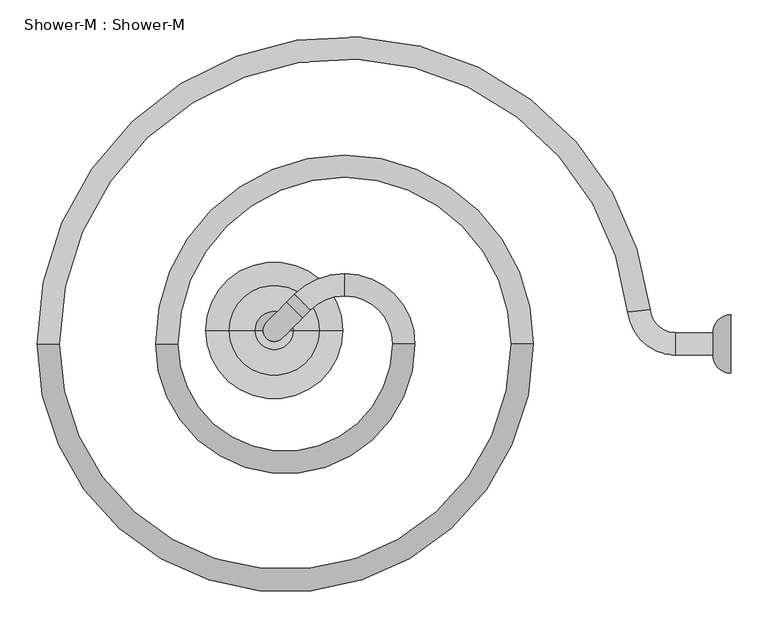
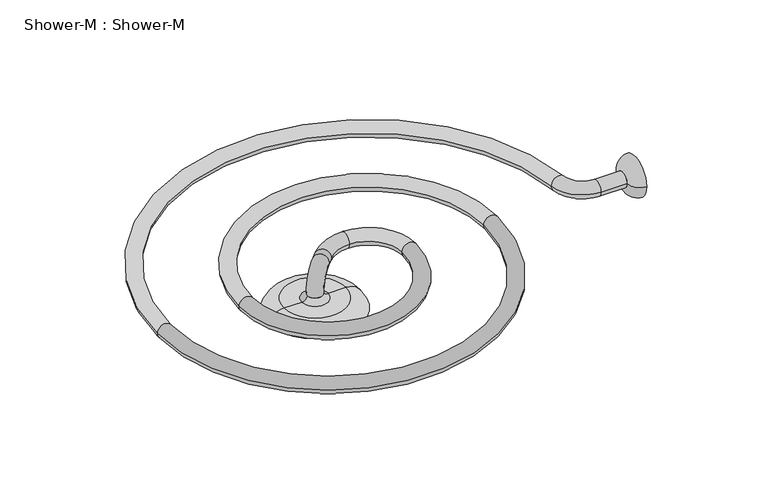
"""IFC4 building model written with IfcOpenShell, lengths in millimetres: flow terminal geometry, Shower-M : Shower-M."""

from ifc_helpers import new_model, si_unit, point, frame, origin, place, context, project, spatial, circle_curve, ellipse_curve, trimmed, source, transform, mapped, element, save
from ifc_brep_helpers import plane_surface, cylinder_surface, revolved_surface, advanced_brep


def shower_m_shower_m_096738a5(model_context):
    return source(origin(), model_context, "Body", "AdvancedBrep", [
        advanced_brep(
        [(497.2135955, -15.0, 0.0), (497.2135955, 15.0, 0.0), (447.2135955, -15.0, 0.0), (447.2135955, 15.0, 0.0), (382.6160761, 42.7777778, 0.0), (412.4303158, 46.1111111, 0.0), (-385.0, 0.0, 0.0), (-415.0, 0.0, 0.0), (225.0, 0.0, 0.0), (255.0, 0.0, 0.0), (-225.0, 0.0, 0.0), (-255.0, 0.0, 0.0), (65.0, 0.0, 0.0), (95.0, 0.0, 0.0), (0.0, 65.0, 0.0), (0.0, 95.0, 0.0), (-45.9619408, 45.9619408, 0.0), (-56.5685425, 56.5685425, -15.0), (-67.1751442, 67.1751442, 0.0), (-56.5685425, 56.5685425, 15.0), (-77.7817459, 56.5685425, 0.0), (-56.5685425, 35.3553391, 0.0), (-105.5150374, 28.835251, -39.220797), (-84.301834, 7.6220476, -39.220797)],
        [
            (0, 1, circle_curve(frame((497.2135955, 0.0, 0.0), z_axis=(1.0, 0.0, 0.0), x_axis=(0.0, 1.0, 0.0)), 15.0)),
            (1, 0, circle_curve(frame((497.2135955, 0.0, 0.0), z_axis=(1.0, 0.0, 0.0), x_axis=(0.0, 1.0, 0.0)), 15.0)),
            (0, 2),
            (2, 3, circle_curve(frame((447.2135955, 0.0, 0.0), z_axis=(1.0, 0.0, 0.0), x_axis=(0.0, 1.0, 0.0)), 15.0)),
            (3, 1),
            (3, 2, circle_curve(frame((447.2135955, 0.0, 0.0), z_axis=(1.0, 0.0, 0.0), x_axis=(0.0, 1.0, 0.0)), 15.0)),
            (2, 4, circle_curve(frame((447.2135955, 50.0, 0.0), z_axis=(0.0, 0.0, -1.0), x_axis=(0.0, -1.0, 0.0)), 65.0)),
            (4, 5, circle_curve(frame((397.523196, 44.4444444, 0.0), z_axis=(0.11111111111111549, -0.993807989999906, 0.0), x_axis=(0.993807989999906, 0.11111111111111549, 0.0)), 15.0)),
            (5, 3, circle_curve(frame((447.2135955, 50.0, 0.0), z_axis=(0.0, 0.0, 1.0), x_axis=(0.0, -1.0, 0.0)), 35.0)),
            (5, 4, circle_curve(frame((397.523196, 44.4444444, 0.0), z_axis=(0.11111111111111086, -0.9938079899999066, 0.0), x_axis=(0.9938079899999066, 0.11111111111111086, 0.0)), 15.0)),
            (4, 6, circle_curve(frame((0.0, 0.0, 0.0), z_axis=(0.0, 0.0, 1.0), x_axis=(0.9938079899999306, 0.11111111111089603, 0.0)), 385.0)),
            (6, 7, circle_curve(frame((-400.0, 0.0, 0.0), z_axis=(0.0, 1.0, 0.0), x_axis=(-1.0, 0.0, 0.0)), 15.0)),
            (7, 5, circle_curve(frame((0.0, 0.0, 0.0), z_axis=(0.0, 0.0, -1.0), x_axis=(0.9938079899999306, 0.11111111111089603, 0.0)), 415.0)),
            (7, 6, circle_curve(frame((-400.0, 0.0, 0.0), z_axis=(0.0, 1.0, 0.0), x_axis=(-1.0, 0.0, 0.0)), 15.0)),
            (6, 8, circle_curve(frame((-80.0, 0.0, 0.0), z_axis=(0.0, 0.0, 1.0), x_axis=(-1.0, 0.0, 0.0)), 305.0)),
            (8, 9, circle_curve(frame((240.0, 0.0, 0.0), z_axis=(-1.5118437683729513e-12, -1.0, 0.0), x_axis=(1.0, -1.5118437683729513e-12, 0.0)), 15.0)),
            (9, 7, circle_curve(frame((-80.0, 0.0, 0.0), z_axis=(0.0, 0.0, -1.0), x_axis=(-1.0, 0.0, 0.0)), 335.0)),
            (9, 8, circle_curve(frame((240.0, 0.0, 0.0), z_axis=(-1.5122878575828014e-12, -1.0, 0.0), x_axis=(1.0, -1.5122878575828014e-12, 0.0)), 15.0)),
            (8, 10, circle_curve(frame((0.0, 0.0, 0.0), z_axis=(0.0, 0.0, 1.0), x_axis=(1.0, -1.7419628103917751e-12, 0.0)), 225.0)),
            (10, 11, circle_curve(frame((-240.0, 0.0, 0.0), z_axis=(0.0, 1.0, 0.0), x_axis=(-1.0, 0.0, 0.0)), 15.0)),
            (11, 9, circle_curve(frame((0.0, 0.0, 0.0), z_axis=(0.0, 0.0, -1.0), x_axis=(1.0, -1.7419628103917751e-12, 0.0)), 255.0)),
            (11, 10, circle_curve(frame((-240.0, 0.0, 0.0), z_axis=(0.0, 1.0, 0.0), x_axis=(-1.0, 0.0, 0.0)), 15.0)),
            (10, 12, circle_curve(frame((-80.0, 0.0, 0.0), z_axis=(0.0, 0.0, 1.0), x_axis=(-1.0, 1.0983550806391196e-12, 0.0)), 145.0)),
            (12, 13, circle_curve(frame((80.0, 0.0, 0.0), z_axis=(-1.3501952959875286e-12, -1.0, 0.0), x_axis=(1.0, -1.3501952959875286e-12, 0.0)), 15.0)),
            (13, 11, circle_curve(frame((-80.0, 0.0, 0.0), z_axis=(0.0, 0.0, -1.0), x_axis=(-1.0, 1.0983550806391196e-12, 0.0)), 175.0)),
            (13, 12, circle_curve(frame((80.0, 0.0, 0.0), z_axis=(-1.3519716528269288e-12, -1.0, 0.0), x_axis=(1.0, -1.3519716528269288e-12, 0.0)), 15.0)),
            (12, 14, circle_curve(frame((0.0, 0.0, 0.0), z_axis=(0.0, 0.0, 1.0), x_axis=(1.0, -1.5865315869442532e-12, 0.0)), 65.0)),
            (14, 15, circle_curve(frame((0.0, 80.0, 0.0), z_axis=(1.0, 0.0, 0.0), x_axis=(0.0, 1.0, 0.0)), 15.0)),
            (15, 13, circle_curve(frame((0.0, 0.0, 0.0), z_axis=(0.0, 0.0, -1.0), x_axis=(1.0, -1.5865315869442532e-12, 0.0)), 95.0)),
            (15, 14, circle_curve(frame((0.0, 80.0, 0.0), z_axis=(1.0, 0.0, 0.0), x_axis=(0.0, 1.0, 0.0)), 15.0)),
            (14, 16, circle_curve(frame((0.0, 0.0, 0.0), z_axis=(0.0, 0.0, 1.0), x_axis=(0.0, 1.0, 0.0)), 65.0)),
            (16, 17, circle_curve(frame((-56.5685425, 56.5685425, 0.0), z_axis=(0.7071067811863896, 0.7071067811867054, 0.0), x_axis=(-0.7071067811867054, 0.7071067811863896, 0.0)), 15.0)),
            (17, 18, circle_curve(frame((-56.5685425, 56.5685425, 0.0), z_axis=(0.7071067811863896, 0.7071067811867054, 0.0), x_axis=(-0.7071067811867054, 0.7071067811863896, 0.0)), 15.0)),
            (18, 15, circle_curve(frame((0.0, 0.0, 0.0), z_axis=(0.0, 0.0, -1.0), x_axis=(0.0, 1.0, 0.0)), 95.0)),
            (18, 19, circle_curve(frame((-56.5685425, 56.5685425, 0.0), z_axis=(0.7071067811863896, 0.7071067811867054, 0.0), x_axis=(-0.7071067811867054, 0.7071067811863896, 0.0)), 15.0)),
            (19, 16, circle_curve(frame((-56.5685425, 56.5685425, 0.0), z_axis=(0.707106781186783, 0.707106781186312, 0.0), x_axis=(-0.707106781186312, 0.707106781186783, 0.0)), 15.0)),
            (18, 20),
            (20, 21, circle_curve(frame((-67.1751442, 45.9619408, 0.0), z_axis=(0.7071067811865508, 0.7071067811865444, 0.0), x_axis=(-0.7071067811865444, 0.7071067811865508, 0.0)), 15.0)),
            (21, 16),
            (21, 20, circle_curve(frame((-67.1751442, 45.9619408, 0.0), z_axis=(0.7071067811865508, 0.7071067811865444, 0.0), x_axis=(-0.7071067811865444, 0.7071067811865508, 0.0)), 15.0)),
            (22, 23, circle_curve(frame((-94.9084357, 18.2286493, -39.220797), z_axis=(0.0, 0.0, -1.0000000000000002), x_axis=(-0.7071067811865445, 0.7071067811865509, 0.0)), 15.0)),
            (23, 22, circle_curve(frame((-94.9084357, 18.2286493, -39.220797), z_axis=(0.0, 0.0, -1.0000000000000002), x_axis=(-0.7071067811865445, 0.7071067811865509, 0.0)), 15.0)),
            (20, 22, circle_curve(frame((-77.7817459, 56.5685425, -39.220797), z_axis=(0.7071067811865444, -0.7071067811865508, 0.0), x_axis=(0.0, 0.0, 1.0000000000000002)), 39.220797)),
            (23, 21, circle_curve(frame((-56.5685425, 35.3553391, -39.220797), z_axis=(-0.7071067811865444, 0.7071067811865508, 0.0), x_axis=(0.0, 0.0, 1.0000000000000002)), 39.220797)),
        ],
        [
            plane_surface(frame((497.2135955, 0.0, 0.0), z_axis=(1.0, 0.0, 0.0), x_axis=(0.0, 0.0, 1.0))),
            cylinder_surface(frame((497.2135955, 0.0, 0.0), z_axis=(1.0, 0.0, 0.0), x_axis=(0.0, 1.0, 0.0)), 15.0),
            revolved_surface(trimmed(ellipse_curve(frame((447.2135955, 0.0, 0.0), z_axis=(1.0, 0.0, 0.0), x_axis=(0.0, 1.0, 0.0)), 15.0, 15.0), [point((447.2135955, -15.0, 0.0))], [point((447.2135955, 15.0, 0.0))], True, "CARTESIAN"), (447.2135955, 50.0, 0.0), (0.0, 0.0, -1.0)),
            revolved_surface(trimmed(ellipse_curve(frame((447.2135955, 0.0, 0.0), z_axis=(1.0, 0.0, 0.0), x_axis=(0.0, 1.0, 0.0)), 15.0, 15.0), [point((447.2135955, 15.0, 0.0))], [point((447.2135955, -15.0, 0.0))], True, "CARTESIAN"), (447.2135955, 50.0, 0.0), (0.0, 0.0, -1.0)),
            revolved_surface(trimmed(ellipse_curve(frame((397.523196, 44.4444444, 0.0), z_axis=(0.11111111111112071, -0.9938079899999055, 0.0), x_axis=(0.9938079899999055, 0.11111111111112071, 0.0)), 15.0, 15.0), [point((382.6160761, 42.7777778, 0.0))], [point((412.4303158, 46.1111111, 0.0))], True, "CARTESIAN"), (0.0, 0.0, 0.0), (0.0, 0.0, 1.0)),
            revolved_surface(trimmed(ellipse_curve(frame((397.523196, 44.4444444, 0.0), z_axis=(0.11111111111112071, -0.9938079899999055, 0.0), x_axis=(0.9938079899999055, 0.11111111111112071, 0.0)), 15.0, 15.0), [point((412.4303158, 46.1111111, 0.0))], [point((382.6160761, 42.7777778, 0.0))], True, "CARTESIAN"), (0.0, 0.0, 0.0), (0.0, 0.0, 1.0)),
            revolved_surface(trimmed(ellipse_curve(frame((-400.0, 0.0, 0.0), z_axis=(0.0, 1.0, 0.0), x_axis=(-1.0, 0.0, 0.0)), 15.0, 15.0), [point((-385.0, 0.0, 0.0))], [point((-415.0, 0.0, 0.0))], True, "CARTESIAN"), (-80.0, 0.0, 0.0), (0.0, 0.0, 1.0)),
            revolved_surface(trimmed(ellipse_curve(frame((-400.0, 0.0, 0.0), z_axis=(0.0, 1.0, 0.0), x_axis=(-1.0, 0.0, 0.0)), 15.0, 15.0), [point((-415.0, 0.0, 0.0))], [point((-385.0, 0.0, 0.0))], True, "CARTESIAN"), (-80.0, 0.0, 0.0), (0.0, 0.0, 1.0)),
            revolved_surface(trimmed(ellipse_curve(frame((240.0, 0.0, 0.0), z_axis=(-1.515840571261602e-12, -1.0, 0.0), x_axis=(1.0, -1.515840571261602e-12, 0.0)), 15.0, 15.0), [point((225.0, 0.0, 0.0))], [point((255.0, 0.0, 0.0))], True, "CARTESIAN"), (0.0, 0.0, 0.0), (0.0, 0.0, 1.0)),
            revolved_surface(trimmed(ellipse_curve(frame((240.0, 0.0, 0.0), z_axis=(-1.515840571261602e-12, -1.0, 0.0), x_axis=(1.0, -1.515840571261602e-12, 0.0)), 15.0, 15.0), [point((255.0, 0.0, 0.0))], [point((225.0, 0.0, 0.0))], True, "CARTESIAN"), (0.0, 0.0, 0.0), (0.0, 0.0, 1.0)),
            revolved_surface(trimmed(ellipse_curve(frame((-240.0, 0.0, 0.0), z_axis=(0.0, 1.0, 0.0), x_axis=(-1.0, 0.0, 0.0)), 15.0, 15.0), [point((-225.0, 0.0, 0.0))], [point((-255.0, 0.0, 0.0))], True, "CARTESIAN"), (-80.0, 0.0, 0.0), (0.0, 0.0, 1.0)),
            revolved_surface(trimmed(ellipse_curve(frame((-240.0, 0.0, 0.0), z_axis=(0.0, 1.0, 0.0), x_axis=(-1.0, 0.0, 0.0)), 15.0, 15.0), [point((-255.0, 0.0, 0.0))], [point((-225.0, 0.0, 0.0))], True, "CARTESIAN"), (-80.0, 0.0, 0.0), (0.0, 0.0, 1.0)),
            revolved_surface(trimmed(ellipse_curve(frame((80.0, 0.0, 0.0), z_axis=(-1.36040934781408e-12, -1.0, 0.0), x_axis=(1.0, -1.36040934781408e-12, 0.0)), 15.0, 15.0), [point((65.0, 0.0, 0.0))], [point((95.0, 0.0, 0.0))], True, "CARTESIAN"), (0.0, 0.0, 0.0), (0.0, 0.0, 1.0)),
            revolved_surface(trimmed(ellipse_curve(frame((80.0, 0.0, 0.0), z_axis=(-1.36040934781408e-12, -1.0, 0.0), x_axis=(1.0, -1.36040934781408e-12, 0.0)), 15.0, 15.0), [point((95.0, 0.0, 0.0))], [point((65.0, 0.0, 0.0))], True, "CARTESIAN"), (0.0, 0.0, 0.0), (0.0, 0.0, 1.0)),
            revolved_surface(trimmed(ellipse_curve(frame((0.0, 80.0, 0.0), z_axis=(1.0, 0.0, 0.0), x_axis=(0.0, 1.0, 0.0)), 15.0, 15.0), [point((0.0, 65.0, 0.0))], [point((0.0, 95.0, 0.0))], True, "CARTESIAN"), (0.0, 0.0, 0.0), (0.0, 0.0, 1.0)),
            revolved_surface(trimmed(ellipse_curve(frame((0.0, 80.0, 0.0), z_axis=(1.0, 0.0, 0.0), x_axis=(0.0, 1.0, 0.0)), 15.0, 15.0), [point((0.0, 95.0, 0.0))], [point((0.0, 65.0, 0.0))], True, "CARTESIAN"), (0.0, 0.0, 0.0), (0.0, 0.0, 1.0)),
            cylinder_surface(frame((-56.5685425, 56.5685425, 0.0), z_axis=(0.7071067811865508, 0.7071067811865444, 0.0), x_axis=(-0.7071067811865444, 0.7071067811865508, 0.0)), 15.0),
            plane_surface(frame((-94.9084357, 18.2286493, -39.220797), z_axis=(0.0, 0.0, -1.0000000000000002), x_axis=(-0.7071067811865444, 0.7071067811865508, 0.0))),
            revolved_surface(trimmed(ellipse_curve(frame((-67.1751442, 45.9619408, 0.0), z_axis=(0.7071067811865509, 0.7071067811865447, 0.0), x_axis=(-0.7071067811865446, 0.7071067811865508, 0.0)), 15.0, 15.0), [point((-77.7817459, 56.5685425, 0.0))], [point((-56.5685425, 35.3553391, 0.0))], True, "CARTESIAN"), (-67.1751442, 45.9619408, -39.220797), (0.7071067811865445, -0.7071067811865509, 0.0)),
            revolved_surface(trimmed(ellipse_curve(frame((-67.1751442, 45.9619408, 0.0), z_axis=(0.7071067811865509, 0.7071067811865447, 0.0), x_axis=(-0.7071067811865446, 0.7071067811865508, 0.0)), 15.0, 15.0), [point((-56.5685425, 35.3553391, 0.0))], [point((-77.7817459, 56.5685425, 0.0))], True, "CARTESIAN"), (-67.1751442, 45.9619408, -39.220797), (0.7071067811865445, -0.7071067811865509, 0.0)),
        ],
        [
            (0, [[1, 2]]),
            (1, [[-1, 3, 4, 5]]),
            (1, [[-2, -5, 6, -3]]),
            (2, [[-4, 7, 8, 9]]),
            (3, [[-6, -9, 10, -7]]),
            (4, [[-8, 11, 12, 13]]),
            (5, [[-10, -13, 14, -11]]),
            (6, [[-12, 15, 16, 17]]),
            (7, [[-14, -17, 18, -15]]),
            (8, [[-16, 19, 20, 21]]),
            (9, [[-18, -21, 22, -19]]),
            (10, [[-20, 23, 24, 25]]),
            (11, [[-22, -25, 26, -23]]),
            (12, [[-24, 27, 28, 29]]),
            (13, [[-26, -29, 30, -27]]),
            (14, [[-28, 31, 32, 33, 34]]),
            (15, [[-30, -34, 35, 36, -31]]),
            (16, [[37, 38, 39, -36, -35]]),
            (16, [[-37, -33, -32, -39, 40]]),
            (17, [[41, 42]]),
            (18, [[-38, 43, -42, 44]]),
            (19, [[-40, -44, -41, -43]]),
        ],
    ),
        advanced_brep(
        [(497.2135955, 0.0, 0.0), (497.2135955, 15.0, 0.0), (497.2135955, -15.0, 0.0), (521.6194463, -39.4058508, 0.0), (521.6194463, 39.4058508, 0.0), (521.6194463, 0.0, 0.0)],
        [
            (0, 1),
            (1, 2, circle_curve(frame((497.2135955, 0.0, 0.0), z_axis=(-1.0, 0.0, 0.0), x_axis=(0.0, 1.0, 0.0)), 15.0)),
            (2, 0),
            (2, 1, circle_curve(frame((497.2135955, 0.0, 0.0), z_axis=(-1.0, 0.0, 0.0), x_axis=(0.0, 1.0, 0.0)), 15.0)),
            (3, 4, circle_curve(frame((521.6194463, 0.0, 0.0), z_axis=(1.0, 0.0, 0.0), x_axis=(0.0, 1.0, 0.0)), 39.4058508)),
            (4, 5),
            (5, 3),
            (4, 3, circle_curve(frame((521.6194463, 0.0, 0.0), z_axis=(1.0, 0.0, 0.0), x_axis=(0.0, 1.0, 0.0)), 39.4058508)),
            (1, 4, circle_curve(frame((521.6194463, 15.0, 0.0), z_axis=(0.0, 0.0, -1.0), x_axis=(1.0, 0.0, 0.0)), 24.4058508)),
            (3, 2, circle_curve(frame((521.6194463, -15.0, 0.0), z_axis=(0.0, 0.0, -1.0), x_axis=(1.0, 0.0, 0.0)), 24.4058508)),
        ],
        [
            plane_surface(frame((497.2135955, 0.0, 0.0), z_axis=(-1.0, 0.0, 0.0), x_axis=(0.0, 1.0, 0.0))),
            plane_surface(frame((521.6194463, 0.0, 0.0), z_axis=(1.0, 0.0, 0.0), x_axis=(0.0, 1.0, 0.0))),
            revolved_surface(trimmed(ellipse_curve(frame((521.6194463, 15.0, 0.0), z_axis=(0.0, 0.0, 1.0), x_axis=(1.0, 0.0, 0.0)), 24.4058508, 24.4058508), [point((521.6194463, 39.4058508, 0.0))], [point((497.2135955, 15.0, 0.0))], True, "CARTESIAN"), (508.5058431, 0.0, 0.0), (-1.0, 0.0, 0.0)),
        ],
        [
            (0, [[1, 2, 3]]),
            (0, [[-3, 4, -1]]),
            (1, [[5, 6, 7]]),
            (1, [[8, -7, -6]]),
            (2, [[-2, 9, -5, 10]]),
            (2, [[-4, -10, -8, -9]]),
        ],
    ),
        advanced_brep(
        [(-79.8854464, 18.2286493, -39.220797), (-109.931425, 18.2286493, -39.220797), (-94.9084357, 18.2286493, -39.220797), (-69.301834, 18.2286493, -49.1294383), (-120.5150374, 18.2286493, -49.1294383), (-34.3141304, 18.2286493, -49.1294383), (-155.502741, 18.2286493, -49.1294383), (-2.4873322, 18.2286493, -69.8273987), (-187.3295393, 18.2286493, -69.8273987), (-94.9084357, 18.2286493, -69.8273987)],
        [
            (0, 1, circle_curve(frame((-94.9084357, 18.2286493, -39.220797), z_axis=(0.0, 0.0, 1.0), x_axis=(-1.0, 0.0, 0.0)), 15.0229893)),
            (1, 2),
            (2, 0),
            (1, 0, circle_curve(frame((-94.9084357, 18.2286493, -39.220797), z_axis=(0.0, 0.0, 1.0), x_axis=(-1.0, 0.0, 0.0)), 15.0229893)),
            (3, 4, circle_curve(frame((-94.9084357, 18.2286493, -49.1294383), z_axis=(0.0, 0.0, 1.0), x_axis=(-1.0, 0.0, 0.0)), 25.6066017)),
            (4, 1, circle_curve(frame((-120.5150374, 18.2286493, -38.5228366), z_axis=(0.0, -1.0, 0.0), x_axis=(1.0, 0.0, 0.0)), 10.6066017)),
            (0, 3, circle_curve(frame((-69.301834, 18.2286493, -38.5228366), z_axis=(0.0, -1.0, 0.0), x_axis=(-1.0, 0.0, 0.0)), 10.6066017)),
            (4, 3, circle_curve(frame((-94.9084357, 18.2286493, -49.1294383), z_axis=(0.0, 0.0, 1.0), x_axis=(-1.0, 0.0, 0.0)), 25.6066017)),
            (5, 6, circle_curve(frame((-94.9084357, 18.2286493, -49.1294383), z_axis=(0.0, 0.0, 1.0), x_axis=(-1.0, 0.0, 0.0)), 60.5943053)),
            (6, 4),
            (3, 5),
            (6, 5, circle_curve(frame((-94.9084357, 18.2286493, -49.1294383), z_axis=(0.0, 0.0, 1.0), x_axis=(-1.0, 0.0, 0.0)), 60.5943053)),
            (7, 8, circle_curve(frame((-94.9084357, 18.2286493, -69.8273987), z_axis=(0.0, 0.0, 1.0), x_axis=(-1.0, 0.0, 0.0)), 92.4211036)),
            (8, 6, circle_curve(frame((-155.502741, 18.2286493, -83.9481022), z_axis=(0.0, 1.0, 0.0), x_axis=(1.0, 0.0, 0.0)), 34.8186638)),
            (5, 7, circle_curve(frame((-34.3141304, 18.2286493, -83.9481022), z_axis=(0.0, 1.0, 0.0), x_axis=(-1.0, 0.0, 0.0)), 34.8186638)),
            (8, 7, circle_curve(frame((-94.9084357, 18.2286493, -69.8273987), z_axis=(0.0, 0.0, 1.0), x_axis=(-1.0, 0.0, 0.0)), 92.4211036)),
            (9, 8),
            (7, 9),
        ],
        [
            plane_surface(frame((-94.9084357, 18.2286493, -39.220797), z_axis=(0.0, 0.0, 1.0), x_axis=(-1.0, 0.0, 0.0))),
            revolved_surface(trimmed(ellipse_curve(frame((-120.5150374, 18.2286493, -38.5228366), z_axis=(0.0, 1.0, 0.0), x_axis=(1.0, 0.0, 0.0)), 10.6066017, 10.6066017), [point((-109.931425, 18.2286493, -39.220797))], [point((-120.5150374, 18.2286493, -49.1294383))], True, "CARTESIAN"), (-94.9084357, 18.2286493, -39.220797), (0.0, 0.0, -1.0)),
            plane_surface(frame((-94.9084357, 18.2286493, -49.1294383), z_axis=(0.0, 0.0, 1.0), x_axis=(-1.0, 0.0, 0.0))),
            revolved_surface(trimmed(ellipse_curve(frame((-155.502741, 18.2286493, -83.9481022), z_axis=(0.0, -1.0, 0.0), x_axis=(1.0, 0.0, 0.0)), 34.8186638, 34.8186638), [point((-155.502741, 18.2286493, -49.1294383))], [point((-187.3295393, 18.2286493, -69.8273987))], True, "CARTESIAN"), (-94.9084357, 18.2286493, -39.220797), (0.0, 0.0, -1.0)),
            plane_surface(frame((-94.9084357, 18.2286493, -69.8273987), z_axis=(0.0, 0.0, -1.0), x_axis=(-1.0, 0.0, 0.0))),
        ],
        [
            (0, [[1, 2, 3]]),
            (0, [[4, -3, -2]]),
            (1, [[5, 6, -1, 7]]),
            (1, [[8, -7, -4, -6]]),
            (2, [[9, 10, -5, 11]]),
            (2, [[12, -11, -8, -10]]),
            (3, [[13, 14, -9, 15]]),
            (3, [[16, -15, -12, -14]]),
            (4, [[17, -13, 18]]),
            (4, [[-18, -16, -17]]),
        ],
    ),
    ])


if __name__ == "__main__":
    model = new_model("IFC4")
    model_context = context("Model", 3, world=origin())
    ifc_project = project(units=[si_unit("LENGTHUNIT", "METRE", prefix="MILLI")], contexts=[model_context])
    site = spatial("IfcSite", under=ifc_project)
    building = spatial("IfcBuilding", under=site)
    placement = place(None, origin())
    shower_m_shower_m_shape = shower_m_shower_m_096738a5(model_context)
    element("IfcFlowTerminal", 1, ObjectType="Shower-M : Shower-M", at=placement, inside=building, context=model_context, shape_type="MappedRepresentation", body=[
        mapped(shower_m_shower_m_shape, transform((0.0, 0.0, 0.0), x_axis=(1.0, 0.0, 0.0), y_axis=(0.0, 1.0, 0.0), z_axis=(0.0, 0.0, 1.0))),
    ])
    save(model, "model.ifc")
